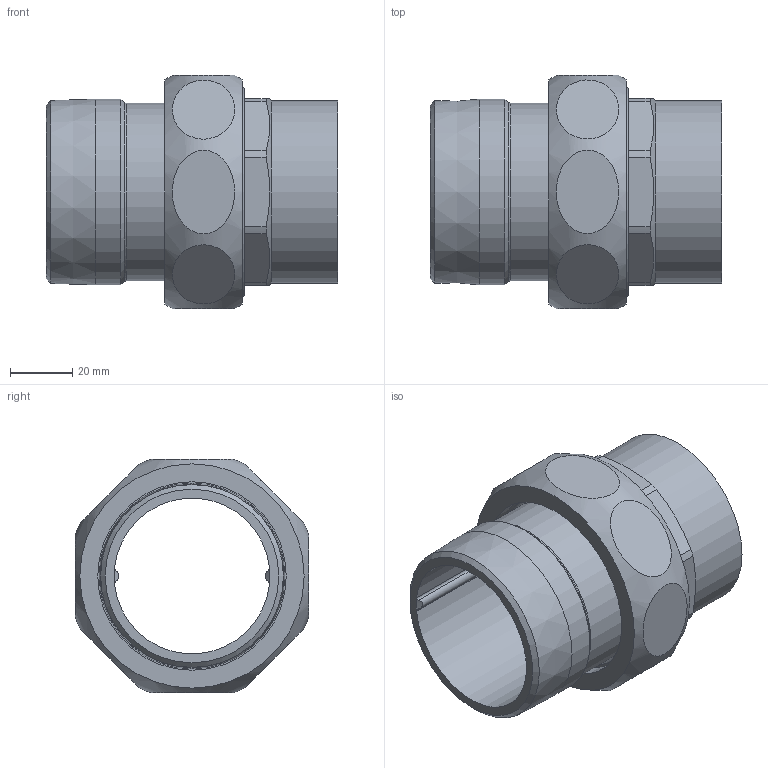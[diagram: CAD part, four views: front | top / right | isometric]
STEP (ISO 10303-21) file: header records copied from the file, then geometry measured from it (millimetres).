
FILE_DESCRIPTION((''),'2;1');
FILE_NAME('\\lg50001\SANHA_Legnica\Engineering\Public\RYSUNKI\SANHA POLSKA\4341g\inventor\14341g_54-2(1).stp','2014-08-25T14:50:13',('gomulka'),(''),'Autodesk Inventor 2009','Autodesk Inventor 2009','');
FILE_SCHEMA(('AUTOMOTIVE_DESIGN { 1 0 10303 214 1 1 1 1 }'));
Length unit declared in the file: millimetre
Products named in the file (4): 14341g_54-2(1); 14380_54-238(2); 14382_2-238(1); 14374_238(0)
Assembly tree (3 placements, depth 2):
  14341g_54-2(1)
    14380_54-238(2)
    14382_2-238(1)
    14374_238(0)
Bounding box: 93.61 x 74.85 x 74.85 mm (x, y, z)
Volume: 103590.3 mm3; surface area: 52831.4 mm2
Topology: 3 solids, 3 shells, 69 faces, 147 edges, 96 vertices
Faces by surface type: plane 27, cylinder 26, cone 12, bspline 3, torus 1
Full cylindrical faces by diameter (mm): 52 x1, 54 x1, 57 x1, 58.5 x1, 59.61 x1, 60.5 x1, 64.5 x1, 65.5 x1, 66.44 x1, 69.398 x1
Entity records: 3524 total; most frequent: CARTESIAN_POINT 2036, DIRECTION 288, ORIENTED_EDGE 246, AXIS2_PLACEMENT_3D 128, EDGE_CURVE 123, EDGE_LOOP 110, VERTEX_POINT 95, FACE_OUTER_BOUND 69
